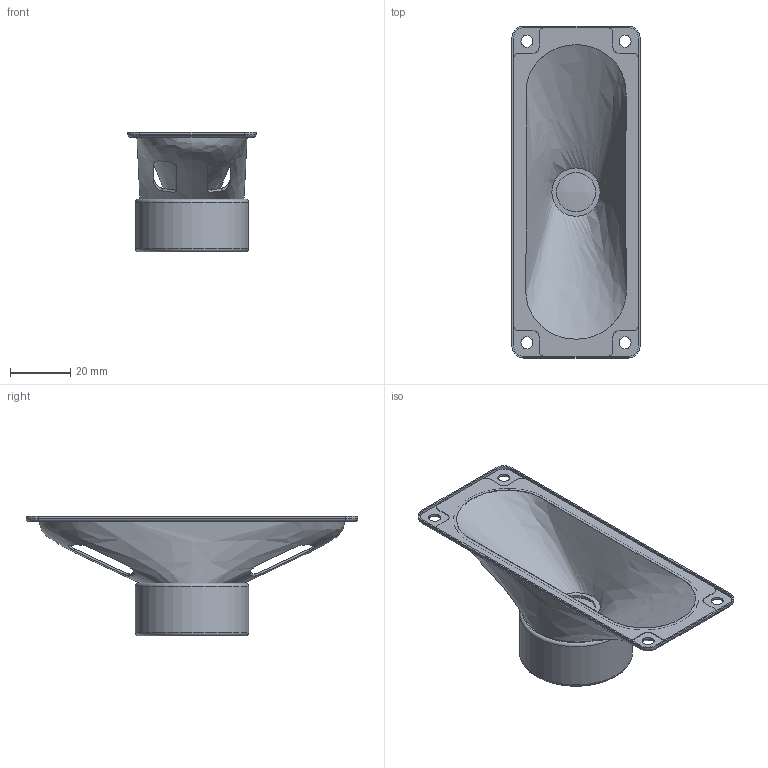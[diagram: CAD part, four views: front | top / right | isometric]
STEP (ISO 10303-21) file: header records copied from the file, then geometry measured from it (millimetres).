
FILE_DESCRIPTION(('FreeCAD Model'),'2;1');
FILE_NAME('Open CASCADE Shape Model','2023-05-06T18:44:57',('Author'),( ''),'Open CASCADE STEP processor 7.5','FreeCAD','Unknown');
FILE_SCHEMA(('AUTOMOTIVE_DESIGN { 1 0 10303 214 1 1 1 1 }'));
Length unit declared in the file: millimetre
Products named in the file (1): DYN 8om3w
Bounding box: 42.5 x 110 x 39.7 mm (x, y, z)
Volume: 23120.6 mm3; surface area: 27075.5 mm2
Topology: 3 solids, 3 shells, 107 faces, 279 edges, 182 vertices
Faces by surface type: cylinder 51, plane 41, torus 8, bspline 6, sphere 1
Full cylindrical faces by diameter (mm): 4 x4, 13 x1, 16 x1, 37.5 x1
Entity records: 17111 total; most frequent: CARTESIAN_POINT 13405, ORIENTED_EDGE 518, DIRECTION 462, EDGE_CURVE 259, VERTEX_POINT 179, AXIS2_PLACEMENT_3D 173, EDGE_LOOP 148, FACE_OUTER_BOUND 124
